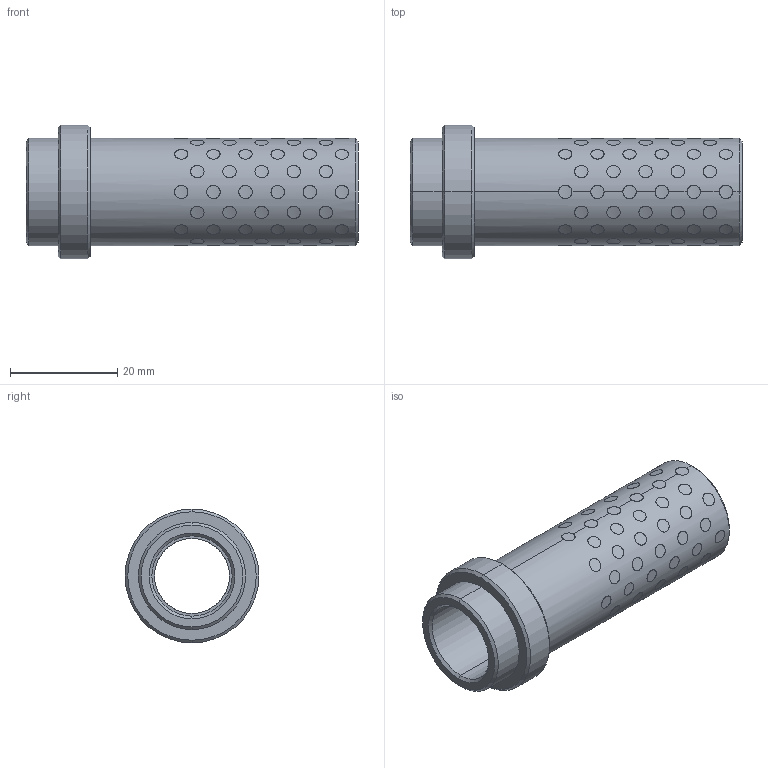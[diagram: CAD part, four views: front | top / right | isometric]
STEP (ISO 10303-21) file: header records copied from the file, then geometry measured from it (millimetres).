
FILE_DESCRIPTION((''),'2;1');
FILE_NAME('G31214056','2017-12-30T',('MANU'),(''),'PRO/ENGINEER BY PARAMETRIC TECHNOLOGY CORPORATION, 2012130','PRO/ENGINEER BY PARAMETRIC TECHNOLOGY CORPORATION, 2012130','');
FILE_SCHEMA(('CONFIG_CONTROL_DESIGN'));
Length unit declared in the file: millimetre
Products named in the file (1): G31214056
Bounding box: 62 x 25 x 25 mm (x, y, z)
Volume: 10339.8 mm3; surface area: 11509.4 mm2
Topology: 89 solids, 89 shells, 555 faces, 1182 edges, 784 vertices
Faces by surface type: cylinder 538, cone 12, plane 5
Entity records: 25074 total; most frequent: CARTESIAN_POINT 14249, ORIENTED_EDGE 2364, DIRECTION 1572, EDGE_CURVE 1182, VERTEX_POINT 784, B_SPLINE_CURVE_WITH_KNOTS 752, EDGE_LOOP 712, AXIS2_PLACEMENT_3D 587
